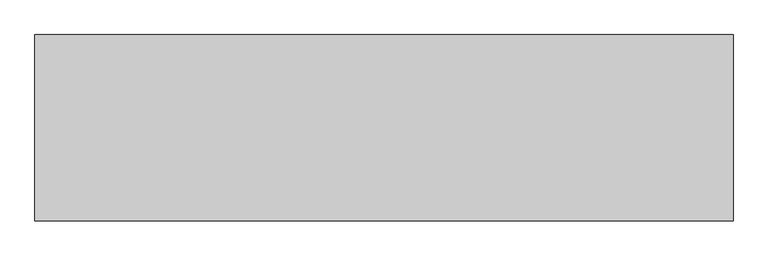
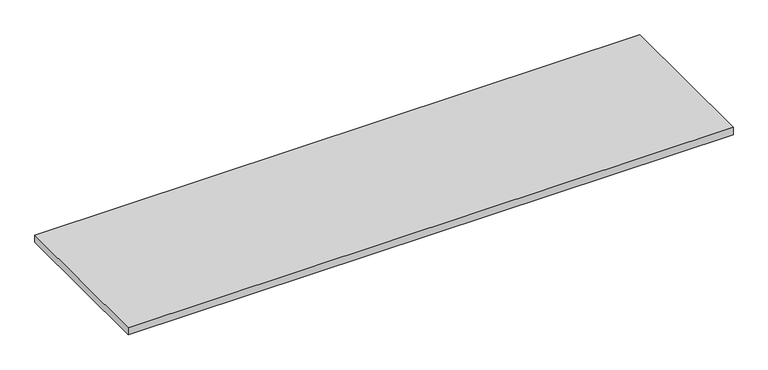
"""IFC4 building model written with IfcOpenShell, lengths in millimetres: furniture geometry, Geiger_GeigerOneCasegoods_CredenzaTopDeskHeightPlain : Laminate 90Wx 24Dx 1.125H."""

from ifc_helpers import new_model, si_unit, origin, origin_with_axes, place, context, project, spatial, polyline, outline, extrude, source, transform, mapped, element, save


def furniture_9a5f5ad6(model_context):
    return source(origin(), model_context, "Body", "SweptSolid", [
        extrude(outline(polyline([(2286.0, 0.0), (2286.0, -609.6), (0.0, -609.6), (0.0, 0.0), (2286.0, 0.0)])), origin_with_axes(), (0.0, 0.0, 1.0), 28.575),
    ])


if __name__ == "__main__":
    model = new_model("IFC4")
    model_context = context("Model", 3, world=origin())
    ifc_project = project(units=[si_unit("LENGTHUNIT", "METRE", prefix="MILLI")], contexts=[model_context])
    site = spatial("IfcSite", under=ifc_project)
    building = spatial("IfcBuilding", under=site)
    placement = place(None, origin())
    furniture_shape = furniture_9a5f5ad6(model_context)
    element("IfcFurniture", 1, ObjectType="Geiger_GeigerOneCasegoods_CredenzaTopDeskHeightPlain : Laminate 90Wx 24Dx 1.125H", at=placement, inside=building, context=model_context, shape_type="MappedRepresentation", body=[
        mapped(furniture_shape, transform((0.0, 0.0, 0.0), x_axis=(1.0, 0.0, 0.0), y_axis=(0.0, 1.0, 0.0), z_axis=(0.0, 0.0, 1.0))),
    ])
    save(model, "model.ifc")
